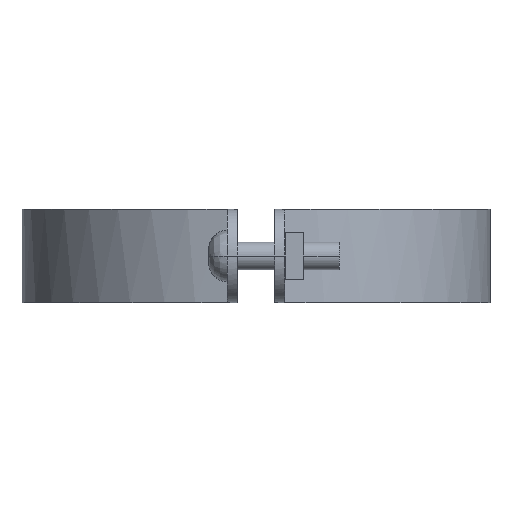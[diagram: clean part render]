
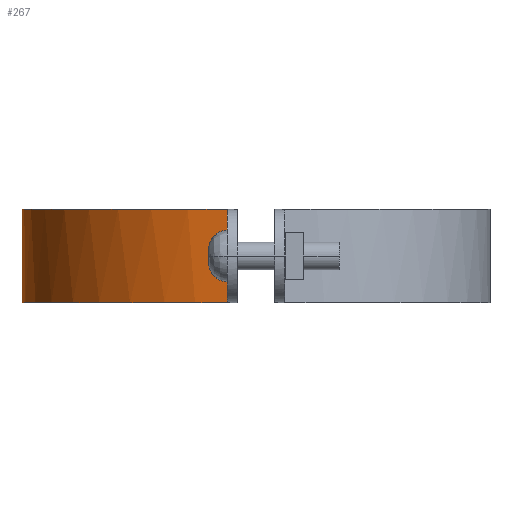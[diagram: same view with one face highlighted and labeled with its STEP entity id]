
A CAD part, left-side view. The second image highlights one B-rep face of the part: STEP entity #267.
In plain terms, the highlighted free-form (B-spline) face has degree [3, 1] with [4, 2] control points.
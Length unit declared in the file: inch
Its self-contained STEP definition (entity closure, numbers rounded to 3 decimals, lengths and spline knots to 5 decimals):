
#267=ADVANCED_FACE('',(#525),#526,.T.);
#525=FACE_OUTER_BOUND('',#1032,.T.);
#526=B_SPLINE_SURFACE_WITH_KNOTS('',3,1,((#1033,#1034),(#1035,#1036),(#1037,#1038),(#1039,#1040)),.UNSPECIFIED.,.F.,.F.,.F.,(4,4),(2,2),(0.0,1.0),(0.0,1.25),.UNSPECIFIED.);
#1032=EDGE_LOOP('',(#1775,#1776,#1777,#1778));
#1033=CARTESIAN_POINT('',(3.8448,6.16463,0.0));
#1034=CARTESIAN_POINT('',(3.8448,6.16463,1.25));
#1035=CARTESIAN_POINT('',(2.26158,6.16463,0.0));
#1036=CARTESIAN_POINT('',(2.26158,6.16463,1.25));
#1037=CARTESIAN_POINT('',(0.9266,4.98467,0.0));
#1038=CARTESIAN_POINT('',(0.9266,4.98467,1.25));
#1039=CARTESIAN_POINT('',(0.73218,3.41342,0.0));
#1040=CARTESIAN_POINT('',(0.73218,3.41342,1.25));
#1775=ORIENTED_EDGE('',*,*,#2072,.T.);
#1776=ORIENTED_EDGE('',*,*,#2093,.T.);
#1777=ORIENTED_EDGE('',*,*,#2035,.T.);
#1778=ORIENTED_EDGE('',*,*,#2018,.F.);
#2018=EDGE_CURVE('',#2305,#2307,#2308,.T.);
#2035=EDGE_CURVE('',#2335,#2307,#2336,.T.);
#2072=EDGE_CURVE('',#2305,#2397,#2399,.T.);
#2093=EDGE_CURVE('',#2397,#2335,#2432,.T.);
#2305=VERTEX_POINT('',#2725);
#2307=VERTEX_POINT('',#2728);
#2308=LINE('',#2729,#2730);
#2335=VERTEX_POINT('',#2774);
#2336=B_SPLINE_CURVE_WITH_KNOTS('',3,(#2775,#2776,#2777,#2778),.UNSPECIFIED.,.F.,.F.,(4,4),(-1.0,-0.0),.UNSPECIFIED.);
#2397=VERTEX_POINT('',#2876);
#2399=B_SPLINE_CURVE_WITH_KNOTS('',3,(#2879,#2880,#2881,#2882),.UNSPECIFIED.,.F.,.F.,(4,4),(0.0,1.0),.UNSPECIFIED.);
#2432=LINE('',#2936,#2937);
#2725=CARTESIAN_POINT('',(3.8448,6.16463,0.00011));
#2728=CARTESIAN_POINT('',(3.8448,6.16463,1.24992));
#2729=CARTESIAN_POINT('',(3.8448,6.16463,0.0));
#2730=VECTOR('',#3389,1.0);
#2774=CARTESIAN_POINT('',(0.73218,3.41342,1.24992));
#2775=CARTESIAN_POINT('',(0.73218,3.41342,1.24992));
#2776=CARTESIAN_POINT('',(0.9266,4.98467,1.24992));
#2777=CARTESIAN_POINT('',(2.26158,6.16463,1.24992));
#2778=CARTESIAN_POINT('',(3.8448,6.16463,1.24992));
#2876=CARTESIAN_POINT('',(0.73218,3.41342,0.00011));
#2879=CARTESIAN_POINT('',(3.8448,6.16463,0.00011));
#2880=CARTESIAN_POINT('',(2.26158,6.16463,0.00011));
#2881=CARTESIAN_POINT('',(0.9266,4.98467,0.00011));
#2882=CARTESIAN_POINT('',(0.73218,3.41342,0.00011));
#2936=CARTESIAN_POINT('',(0.73218,3.41342,0.0));
#2937=VECTOR('',#3445,1.0);
#3389=DIRECTION('',(0.0,0.0,1.0));
#3445=DIRECTION('',(0.0,0.0,1.0));
